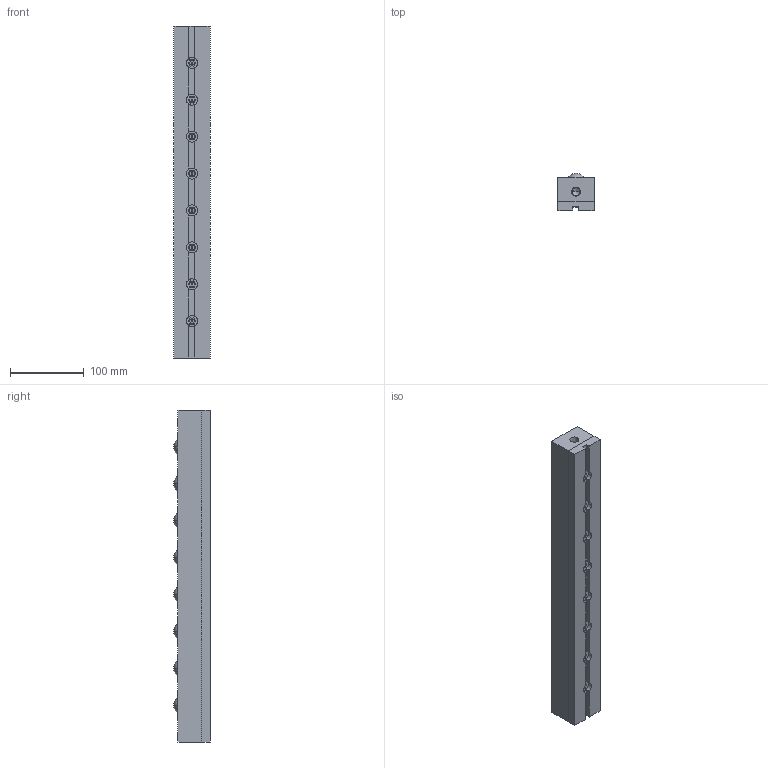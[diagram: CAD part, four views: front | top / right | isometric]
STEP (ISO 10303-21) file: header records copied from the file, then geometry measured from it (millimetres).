
FILE_DESCRIPTION (( 'STEP AP203' ), '1' );
FILE_NAME ('PVL55SH-8.STEP', '2016-01-25T01:11:17', ( '' ), ( '' ), 'SwSTEP 2.0', 'SolidWorks 2013', '' );
FILE_SCHEMA (( 'CONFIG_CONTROL_DESIGN' ));
Length unit declared in the file: millimetre
Products named in the file (1): PVL55SH-8
Bounding box: 49 x 50 x 450 mm (x, y, z)
Volume: 949379.1 mm3; surface area: 156880 mm2
Topology: 2 solids, 2 shells, 371 faces, 804 edges, 537 vertices
Faces by surface type: cylinder 210, plane 141, sphere 16, cone 4
Entity records: 10451 total; most frequent: DIRECTION 2034, CARTESIAN_POINT 1711, ORIENTED_EDGE 1604, AXIS2_PLACEMENT_3D 860, EDGE_CURVE 802, VERTEX_POINT 537, CIRCLE 488, EDGE_LOOP 481
